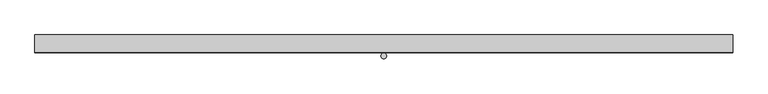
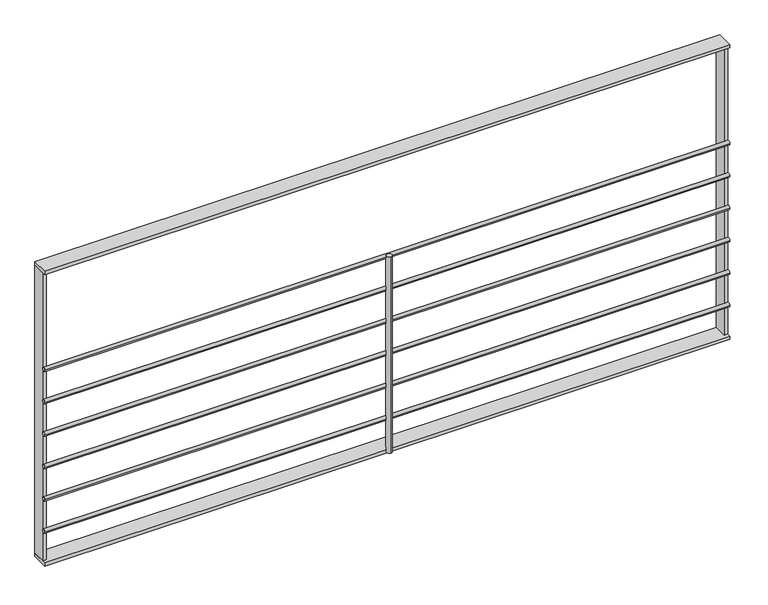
"""IFC4 building model written with IfcOpenShell, lengths in millimetres: railing geometry, Pletina y tubos."""

from ifc_helpers import new_model, si_unit, point, frame, frame_2d, origin, place, context, project, spatial, polyline, circle_curve, trimmed, segment, composite_curve, outline, extrude, source, transform, mapped, element, save


def railing_8e1c6d7f(model_context):
    return source(origin(), model_context, "Body", "SweptSolid", [
        extrude(outline(polyline([(130.2022483, -12352.6669037), (130.2022483, -12402.6669037), (-1869.7977517, -12402.6669037), (-1869.7977517, -12352.6669037), (130.2022483, -12352.6669037)])), frame((0.0, 0.0, 3200.0), z_axis=(0.0, 0.0, 1.0), x_axis=(1.0, 0.0, 0.0)), (0.0, 0.0, 1.0), 10.0),
        extrude(outline(composite_curve([segment(trimmed(circle_curve(frame_2d((-12397.6669037, 3305.0)), 6.0), [point((-12403.6669037, 3305.0))], [point((-12391.6669037, 3305.0))], False, "CARTESIAN"), True, "CONTINUOUS"), segment(trimmed(circle_curve(frame_2d((-12397.6669037, 3305.0)), 6.0), [point((-12391.6669037, 3305.0))], [point((-12403.6669037, 3305.0))], False, "CARTESIAN"), True, "CONTINUOUS")], self_intersect=False)), frame((-1869.7977517, 0.0, 0.0), z_axis=(1.0, 0.0, 0.0), x_axis=(0.0, 1.0, 0.0)), (0.0, 0.0, 1.0), 2000.0),
        extrude(outline(composite_curve([segment(trimmed(circle_curve(frame_2d((-12397.6669037, 3405.0)), 6.0), [point((-12403.6669037, 3405.0))], [point((-12391.6669037, 3405.0))], False, "CARTESIAN"), True, "CONTINUOUS"), segment(trimmed(circle_curve(frame_2d((-12397.6669037, 3405.0)), 6.0), [point((-12391.6669037, 3405.0))], [point((-12403.6669037, 3405.0))], False, "CARTESIAN"), True, "CONTINUOUS")], self_intersect=False)), frame((-1869.7977517, 0.0, 0.0), z_axis=(1.0, 0.0, 0.0), x_axis=(0.0, 1.0, 0.0)), (0.0, 0.0, 1.0), 2000.0),
        extrude(outline(composite_curve([segment(trimmed(circle_curve(frame_2d((-12397.6669037, 3505.0)), 6.0), [point((-12403.6669037, 3505.0))], [point((-12391.6669037, 3505.0))], False, "CARTESIAN"), True, "CONTINUOUS"), segment(trimmed(circle_curve(frame_2d((-12397.6669037, 3505.0)), 6.0), [point((-12391.6669037, 3505.0))], [point((-12403.6669037, 3505.0))], False, "CARTESIAN"), True, "CONTINUOUS")], self_intersect=False)), frame((-1869.7977517, 0.0, 0.0), z_axis=(1.0, 0.0, 0.0), x_axis=(0.0, 1.0, 0.0)), (0.0, 0.0, 1.0), 2000.0),
        extrude(outline(composite_curve([segment(trimmed(circle_curve(frame_2d((-12397.6669037, 3605.0)), 6.0), [point((-12403.6669037, 3605.0))], [point((-12391.6669037, 3605.0))], False, "CARTESIAN"), True, "CONTINUOUS"), segment(trimmed(circle_curve(frame_2d((-12397.6669037, 3605.0)), 6.0), [point((-12391.6669037, 3605.0))], [point((-12403.6669037, 3605.0))], False, "CARTESIAN"), True, "CONTINUOUS")], self_intersect=False)), frame((-1869.7977517, 0.0, 0.0), z_axis=(1.0, 0.0, 0.0), x_axis=(0.0, 1.0, 0.0)), (0.0, 0.0, 1.0), 2000.0),
        extrude(outline(composite_curve([segment(trimmed(circle_curve(frame_2d((-12397.6669037, 3705.0)), 6.0), [point((-12403.6669037, 3705.0))], [point((-12391.6669037, 3705.0))], False, "CARTESIAN"), True, "CONTINUOUS"), segment(trimmed(circle_curve(frame_2d((-12397.6669037, 3705.0)), 6.0), [point((-12391.6669037, 3705.0))], [point((-12403.6669037, 3705.0))], False, "CARTESIAN"), True, "CONTINUOUS")], self_intersect=False)), frame((-1869.7977517, 0.0, 0.0), z_axis=(1.0, 0.0, 0.0), x_axis=(0.0, 1.0, 0.0)), (0.0, 0.0, 1.0), 2000.0),
        extrude(outline(composite_curve([segment(trimmed(circle_curve(frame_2d((-12397.6669037, 3805.0)), 6.0), [point((-12403.6669037, 3805.0))], [point((-12391.6669037, 3805.0))], False, "CARTESIAN"), True, "CONTINUOUS"), segment(trimmed(circle_curve(frame_2d((-12397.6669037, 3805.0)), 6.0), [point((-12391.6669037, 3805.0))], [point((-12403.6669037, 3805.0))], False, "CARTESIAN"), True, "CONTINUOUS")], self_intersect=False)), frame((-1869.7977517, 0.0, 0.0), z_axis=(1.0, 0.0, 0.0), x_axis=(0.0, 1.0, 0.0)), (0.0, 0.0, 1.0), 2000.0),
        extrude(outline(polyline([(130.2022483, -12352.6669037), (130.2022483, -12402.6669037), (-1869.7977517, -12402.6669037), (-1869.7977517, -12352.6669037), (130.2022483, -12352.6669037)])), frame((0.0, 0.0, 4100.0), z_axis=(0.0, 0.0, 1.0), x_axis=(1.0, 0.0, 0.0)), (0.0, 0.0, 1.0), 10.0),
        extrude(outline(composite_curve([segment(trimmed(circle_curve(frame_2d((-869.7977517, -12412.6669037)), 8.0), [point((-869.7977517, -12420.6669037))], [point((-869.7977517, -12404.6669037))], False, "CARTESIAN"), True, "CONTINUOUS"), segment(trimmed(circle_curve(frame_2d((-869.7977517, -12412.6669037)), 8.0), [point((-869.7977517, -12404.6669037))], [point((-869.7977517, -12420.6669037))], False, "CARTESIAN"), True, "CONTINUOUS")], self_intersect=False)), frame((0.0, 0.0, 3210.0), z_axis=(0.0, 0.0, 1.0), x_axis=(1.0, 0.0, 0.0)), (0.0, 0.0, 1.0), 605.0),
        extrude(outline(polyline([(-1859.7977517, -12392.6669037), (-1869.7977517, -12392.6669037), (-1869.7977517, -12352.6669037), (-1859.7977517, -12352.6669037), (-1859.7977517, -12392.6669037)])), frame((0.0, 0.0, 3210.0), z_axis=(0.0, 0.0, 1.0), x_axis=(1.0, 0.0, 0.0)), (0.0, 0.0, 1.0), 890.0),
        extrude(outline(polyline([(130.2022483, -12392.6669037), (120.2022483, -12392.6669037), (120.2022483, -12352.6669037), (130.2022483, -12352.6669037), (130.2022483, -12392.6669037)])), frame((0.0, 0.0, 3210.0), z_axis=(0.0, 0.0, 1.0), x_axis=(1.0, 0.0, 0.0)), (0.0, 0.0, 1.0), 890.0),
    ])


if __name__ == "__main__":
    model = new_model("IFC4")
    model_context = context("Model", 3, world=origin())
    ifc_project = project(units=[si_unit("LENGTHUNIT", "METRE", prefix="MILLI")], contexts=[model_context])
    site = spatial("IfcSite", under=ifc_project)
    building = spatial("IfcBuilding", under=site)
    placement = place(None, origin())
    railing_shape = railing_8e1c6d7f(model_context)
    element("IfcRailing", 1, ObjectType="Pletina y tubos", at=placement, inside=building, context=model_context, shape_type="MappedRepresentation", body=[
        mapped(railing_shape, transform((0.0, 0.0, 0.0), x_axis=(1.0, 0.0, 0.0), y_axis=(0.0, 1.0, 0.0), z_axis=(0.0, 0.0, 1.0))),
    ])
    save(model, "model.ifc")
